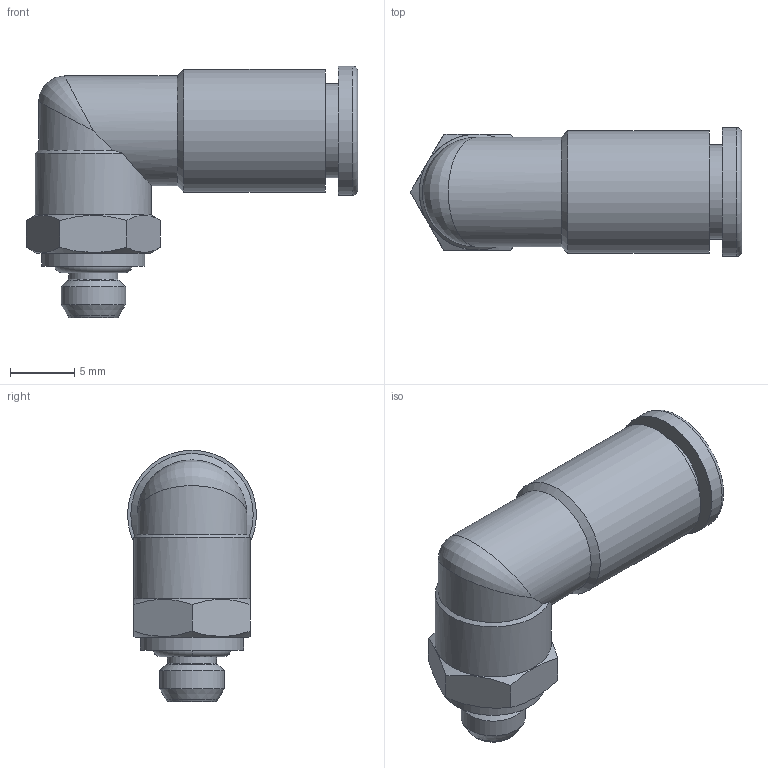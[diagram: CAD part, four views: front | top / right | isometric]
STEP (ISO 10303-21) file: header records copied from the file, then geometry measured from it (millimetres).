
FILE_DESCRIPTION(('Bauteilbeschreibung','HiCAD-Model','HiCAD-STEP-TRANSLATION','Bauteilbeschreibung'),'2;1');
FILE_NAME('B:/ABGLEICH/ZEICHNUNGEN/STEP FÜR INTERNET/STEP/IPSO 022/202227_IPSO_022_5_M5.STP','2012-02-03T14:14:39+00:00',('Konstrukteur'),('Konstrukteur Firma GmbH'),' HiCAD neXt 2008, Step 3.1.1401.2J ','HiCAD neXt 2008','confidential');
FILE_SCHEMA(('AUTOMOTIVE_DESIGN { 1 2 10303 214 0 1 1 1 }'));
Length unit declared in the file: millimetre
Products named in the file (7): A02227_IPSO_022_5_M5; OR 4X1_2; DR5_1; A14601_N2; A146010N2; DIN 13_M5; R202227_N
Assembly tree (6 placements, depth 3):
  A02227_IPSO_022_5_M5
    OR 4X1_2
    DR5_1
    A14601_N2
    A146010N2
      DIN 13_M5
    R202227_N
Bounding box: 25.7 x 10 x 19.5 mm (x, y, z)
Volume: 1357.2 mm3; surface area: 2405.2 mm2
Topology: 5 solids, 5 shells, 74 faces, 163 edges, 100 vertices
Faces by surface type: cylinder 23, plane 21, cone 19, torus 10, bspline 1
Full cylindrical faces by diameter (mm): 2.6 x1, 3.498 x1, 3.8 x1, 4.019 x2, 5 x1, 5.1 x1, 5.2 x1, 5.5 x1, 6 x2, 6.8 x2, 7.3 x1, 7.5 x1, 7.85 x1, 7.9 x1, 8 x1, 8.5 x1, 9 x1, 9.5 x1, 10 x1
Entity records: 3308 total; most frequent: CARTESIAN_POINT 1374, DIRECTION 318, ORIENTED_EDGE 194, AXIS2_PLACEMENT_3D 155, EDGE_LOOP 133, EDGE_CURVE 97, COLOUR_RGB 87, PRESENTATION_STYLE_ASSIGNMENT 87
